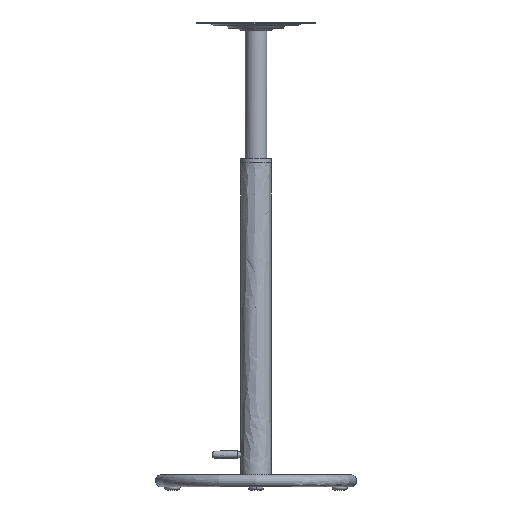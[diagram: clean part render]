
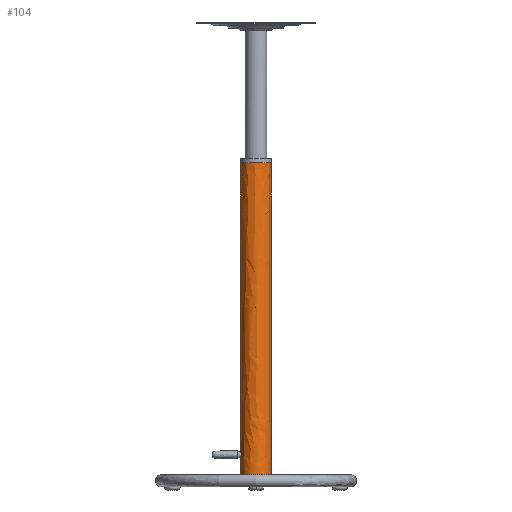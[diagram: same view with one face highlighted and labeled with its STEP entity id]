
A CAD part, front view. The second image highlights one B-rep face of the part: STEP entity #104.
In plain terms, the highlighted free-form (B-spline) face has degree [2, 1] with [5, 2] control points.
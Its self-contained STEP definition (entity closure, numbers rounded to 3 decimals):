
#104=ADVANCED_FACE('',(#185),#1182,.T.);
#185=FACE_OUTER_BOUND('',#285,.T.);
#285=EDGE_LOOP('',(#592,#593,#594,#595,#596,#597));
#592=ORIENTED_EDGE('',*,*,#812,.T.);
#593=ORIENTED_EDGE('',*,*,#822,.T.);
#594=ORIENTED_EDGE('',*,*,#813,.T.);
#595=ORIENTED_EDGE('',*,*,#814,.F.);
#596=ORIENTED_EDGE('',*,*,#815,.T.);
#597=ORIENTED_EDGE('',*,*,#816,.F.);
#812=EDGE_CURVE('',#1122,#1124,#975,.T.);
#813=EDGE_CURVE('',#1125,#1120,#976,.T.);
#814=EDGE_CURVE('',#1121,#1120,#977,.T.);
#815=EDGE_CURVE('',#1121,#1123,#978,.T.);
#816=EDGE_CURVE('',#1122,#1123,#979,.T.);
#822=EDGE_CURVE('',#1124,#1125,#1031,.T.);
#975=(
BOUNDED_CURVE()
B_SPLINE_CURVE(1,(#2768,#2769),.UNSPECIFIED.,.F.,.F.)
B_SPLINE_CURVE_WITH_KNOTS((2,2),(0.,574.),.UNSPECIFIED.)
CURVE()
GEOMETRIC_REPRESENTATION_ITEM()
RATIONAL_B_SPLINE_CURVE((1.,1.))
REPRESENTATION_ITEM('')
);
#976=(
BOUNDED_CURVE()
B_SPLINE_CURVE(1,(#2770,#2771),.UNSPECIFIED.,.F.,.F.)
B_SPLINE_CURVE_WITH_KNOTS((2,2),(0.,34.),.UNSPECIFIED.)
CURVE()
GEOMETRIC_REPRESENTATION_ITEM()
RATIONAL_B_SPLINE_CURVE((1.,1.))
REPRESENTATION_ITEM('')
);
#977=(
BOUNDED_CURVE()
B_SPLINE_CURVE(2,(#2772,#2773,#2774,#2775,#2776),.UNSPECIFIED.,.F.,.F.)
B_SPLINE_CURVE_WITH_KNOTS((3,2,3),(-121.,-60.5,
0.),.UNSPECIFIED.)
CURVE()
GEOMETRIC_REPRESENTATION_ITEM()
RATIONAL_B_SPLINE_CURVE((1.,0.707,1.,0.707,1.))
REPRESENTATION_ITEM('')
);
#978=(
BOUNDED_CURVE()
B_SPLINE_CURVE(1,(#2777,#2778),.UNSPECIFIED.,.F.,.F.)
B_SPLINE_CURVE_WITH_KNOTS((2,2),(0.,620.),.UNSPECIFIED.)
CURVE()
GEOMETRIC_REPRESENTATION_ITEM()
RATIONAL_B_SPLINE_CURVE((1.,1.))
REPRESENTATION_ITEM('')
);
#979=(
BOUNDED_CURVE()
B_SPLINE_CURVE(2,(#2779,#2780,#2781,#2782,#2783),.UNSPECIFIED.,.F.,.F.)
B_SPLINE_CURVE_WITH_KNOTS((3,2,3),(-121.,-60.5,
0.),.UNSPECIFIED.)
CURVE()
GEOMETRIC_REPRESENTATION_ITEM()
RATIONAL_B_SPLINE_CURVE((1.,0.707,1.,0.707,1.))
REPRESENTATION_ITEM('')
);
#1031=B_SPLINE_CURVE_WITH_KNOTS('',3,(#2803,#2804,#2805,#2806,#2807,#2808),
 .UNSPECIFIED.,.F.,.F.,(4,2,4),(-20.947,-10.474,0.),
 .UNSPECIFIED.);
#1120=VERTEX_POINT('',#2744);
#1121=VERTEX_POINT('',#2745);
#1122=VERTEX_POINT('',#2746);
#1123=VERTEX_POINT('',#2747);
#1124=VERTEX_POINT('',#2748);
#1125=VERTEX_POINT('',#2749);
#1182=(
BOUNDED_SURFACE()
B_SPLINE_SURFACE(2,1,((#2281,#2282),(#2283,#2284),(#2285,#2286),(#2287,
#2288),(#2289,#2290)),.UNSPECIFIED.,.F.,.F.,.F.)
B_SPLINE_SURFACE_WITH_KNOTS((3,2,3),(2,2),(0.,4.752,
9.503),(0.8,62.8),.UNSPECIFIED.)
GEOMETRIC_REPRESENTATION_ITEM()
RATIONAL_B_SPLINE_SURFACE(((1.,1.),(0.707,0.707),
(1.,1.),(0.707,0.707),(1.,1.)))
REPRESENTATION_ITEM('')
SURFACE()
);
#2281=CARTESIAN_POINT('',(30.25,0.,652.504));
#2282=CARTESIAN_POINT('',(30.25,0.,32.504));
#2283=CARTESIAN_POINT('',(30.25,-30.25,652.504));
#2284=CARTESIAN_POINT('',(30.25,-30.25,32.504));
#2285=CARTESIAN_POINT('',(0.,-30.25,652.504));
#2286=CARTESIAN_POINT('',(0.,-30.25,32.504));
#2287=CARTESIAN_POINT('',(-30.25,-30.25,652.504));
#2288=CARTESIAN_POINT('',(-30.25,-30.25,32.504));
#2289=CARTESIAN_POINT('',(-30.25,0.,652.504));
#2290=CARTESIAN_POINT('',(-30.25,0.,32.504));
#2744=CARTESIAN_POINT('',(-30.25,0.,32.504));
#2745=CARTESIAN_POINT('',(30.25,0.,32.504));
#2746=CARTESIAN_POINT('',(-30.25,0.,652.504));
#2747=CARTESIAN_POINT('',(30.25,0.,652.504));
#2748=CARTESIAN_POINT('',(-30.25,0.,78.504));
#2749=CARTESIAN_POINT('',(-30.25,0.,66.504));
#2768=CARTESIAN_POINT('',(-30.25,0.,652.504));
#2769=CARTESIAN_POINT('',(-30.25,0.,78.504));
#2770=CARTESIAN_POINT('',(-30.25,0.,66.504));
#2771=CARTESIAN_POINT('',(-30.25,0.,32.504));
#2772=CARTESIAN_POINT('',(30.25,0.,32.504));
#2773=CARTESIAN_POINT('',(30.25,-30.25,32.504));
#2774=CARTESIAN_POINT('',(0.,-30.25,32.504));
#2775=CARTESIAN_POINT('',(-30.25,-30.25,32.504));
#2776=CARTESIAN_POINT('',(-30.25,0.,32.504));
#2777=CARTESIAN_POINT('',(30.25,0.,32.504));
#2778=CARTESIAN_POINT('',(30.25,0.,652.504));
#2779=CARTESIAN_POINT('',(-30.25,0.,652.504));
#2780=CARTESIAN_POINT('',(-30.25,-30.25,652.504));
#2781=CARTESIAN_POINT('',(0.,-30.25,652.504));
#2782=CARTESIAN_POINT('',(30.25,-30.25,652.504));
#2783=CARTESIAN_POINT('',(30.25,0.,652.504));
#2803=CARTESIAN_POINT('',(-30.25,0.,78.504));
#2804=CARTESIAN_POINT('',(-30.25,-3.314,78.504));
#2805=CARTESIAN_POINT('',(-29.649,-6.,75.817));
#2806=CARTESIAN_POINT('',(-29.649,-6.,69.19));
#2807=CARTESIAN_POINT('',(-30.25,-3.314,66.504));
#2808=CARTESIAN_POINT('',(-30.25,0.,66.504));
